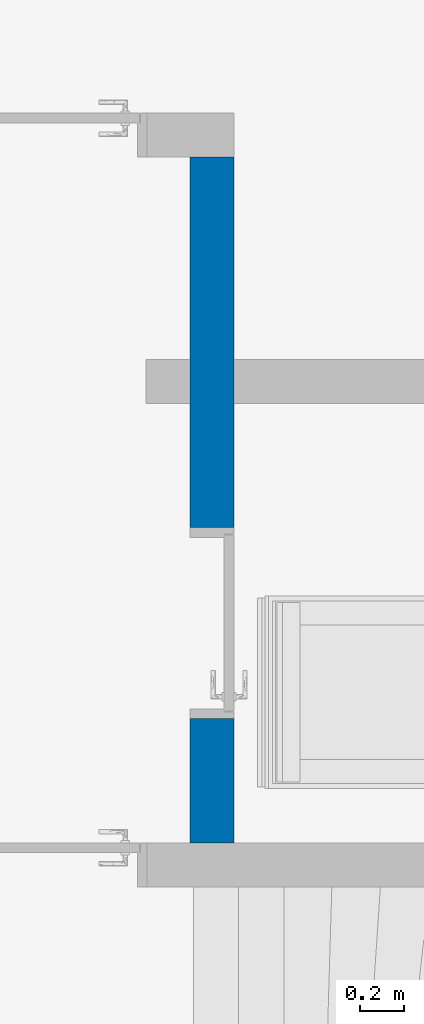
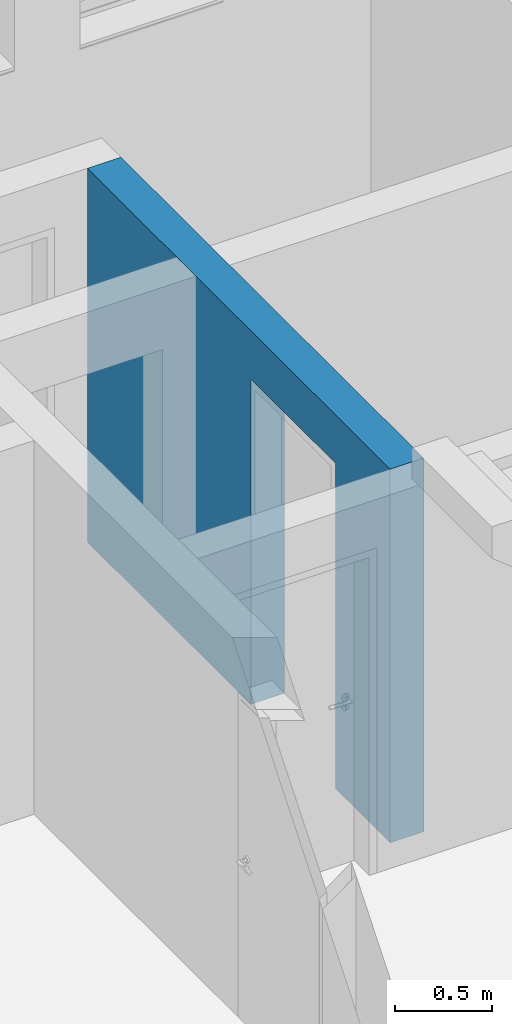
# One storey, part 9 of 22: 1 wall, 1 opening.
"""IFC2X3 building model written with IfcOpenShell, lengths in metres."""

from ifc_helpers import new_model, entity, si_unit, converted_unit, derived_unit, direction, frame, frame_2d, origin, place, context, subcontext, project, spatial, polyline, rectangle, extrude, clip, bounded_halfspace, material, layer, layer_set, layer_usage, type_object, element, save


model = new_model("IFC2X3")

# Units and contexts
model_context = context("Model", 3, precision=1e-05, world=origin(), true_north=direction((6.123233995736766e-17, 1.0)))
body_context = subcontext(model_context, "Body", "Model", "MODEL_VIEW")
ifc_project = project(units=[si_unit("LENGTHUNIT", "METRE"), si_unit("AREAUNIT", "SQUARE_METRE"), si_unit("VOLUMEUNIT", "CUBIC_METRE"), si_unit("POWERUNIT", "WATT"), derived_unit("USERDEFINED", [(si_unit("MASSUNIT", "GRAM", prefix="KILO"), 1), (si_unit("TIMEUNIT", "SECOND"), -3)]), derived_unit("THERMALRESISTANCEUNIT", [(si_unit("MASSUNIT", "GRAM", prefix="KILO"), -1), (si_unit("TIMEUNIT", "SECOND"), 3), (si_unit("THERMODYNAMICTEMPERATUREUNIT", "KELVIN"), 1)]), derived_unit("USERDEFINED", [(si_unit("MASSUNIT", "GRAM", prefix="KILO"), 1), (si_unit("TIMEUNIT", "SECOND"), -2), (si_unit("THERMODYNAMICTEMPERATUREUNIT", "KELVIN"), -1)]), derived_unit("THERMALTRANSMITTANCEUNIT", [(si_unit("MASSUNIT", "GRAM", prefix="KILO"), 1), (si_unit("TIMEUNIT", "SECOND"), -3), (si_unit("THERMODYNAMICTEMPERATUREUNIT", "KELVIN"), -1)]), converted_unit("PLANEANGLEUNIT", "DEGREE", entity("IfcPlaneAngleMeasure", 0.017453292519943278), si_unit("PLANEANGLEUNIT", "RADIAN"), dimensions=[0, 0, 0, 0, 0, 0, 0]), derived_unit("MOMENTOFINERTIAUNIT", [(si_unit("LENGTHUNIT", "METRE"), 4)])], contexts=[model_context])

# Site, building, storey
site_placement = place(None, origin())
site = spatial("IfcSite", under=ifc_project, at=site_placement, Name="Default", CompositionType="ELEMENT")
building_placement = place(site_placement, origin())
building = spatial("IfcBuilding", under=site, at=building_placement, CompositionType="ELEMENT")
storey_placement = place(building_placement, origin())
storey = spatial("IfcBuildingStorey", under=building, at=storey_placement, Name="Untergeschoss", CompositionType="ELEMENT", Elevation=0.0)

# Wall, opening
ifc_material = material(Name="Mauerwerk - Ziegel")
ifc_layer = layer(ifc_material, 0.2)
ifc_layer_set = layer_set([ifc_layer], Name="Basiswand:Ziegel 200")
ifc_layer_usage = layer_usage(ifc_layer_set, "AXIS2", "NEGATIVE", 0.1)
wall_type = type_object("IfcWallType", Name="Basiswand:Ziegel 200", PredefinedType="STANDARD", material=ifc_layer_set)
wall_placement = place(storey_placement, frame((35.54375489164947, 26.40227237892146, 0.0), z_axis=(0.0, 0.0, 1.0), x_axis=(0.0, -1.0, 0.0)))
wall = element("IfcWallStandardCase", 1, at=wall_placement, inside=storey, type_object=wall_type, material=ifc_layer_usage, Name="Basiswand:Ziegel 200", ObjectType="Basiswand:Ziegel 200", context=body_context, shape_type="Clipping", body=[
    clip(extrude(rectangle(XDim=3.1200000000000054, YDim=0.19999999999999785, at=frame_2d((1.5600000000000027, 0.0), x_axis=(-1.0, 0.0))), origin(), (0.0, 0.0, 1.0), 2.35), bounded_halfspace(frame((0.0, 0.09999999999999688, 2.35), z_axis=(0.0, 0.0, -1.0), x_axis=(0.0, 1.0, 0.0)), True, frame((0.0, 0.09999999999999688, 2.35)), polyline([(0.0, 0.0), (0.0, -0.19999999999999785), (0.9200000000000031, -0.19999999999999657), (1.1200000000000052, -0.1999999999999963), (3.120000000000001, -0.19999999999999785), (3.1200000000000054, 0.0), (3.0700000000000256, 0.0), (1.1200000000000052, 0.0), (0.9199999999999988, 0.0), (0.0, 0.0)]))),
])
opening_placement = place(wall_placement, frame((1.6850000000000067, -0.10000000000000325, -0.18000000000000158)))
element("IfcOpeningElement", 2, at=opening_placement, cuts=wall, Name="TU DF 1 - Rahmenstock flächenbündig:DL - 780 x 2000:1", ObjectType="Opening", context=body_context, shape_type="SweptSolid", body=[
    extrude(rectangle(XDim=2.224999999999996, YDim=0.8699999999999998, at=frame_2d((1.1124999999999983, 0.4350000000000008), x_axis=(-1.0, 0.0))), frame((0.0, 0.0, 0.0), z_axis=(0.0, 1.0, 0.0), x_axis=(0.0, 0.0, 1.0)), (0.0, 0.0, 1.0), 0.2),
])

save(model, "model.ifc")
